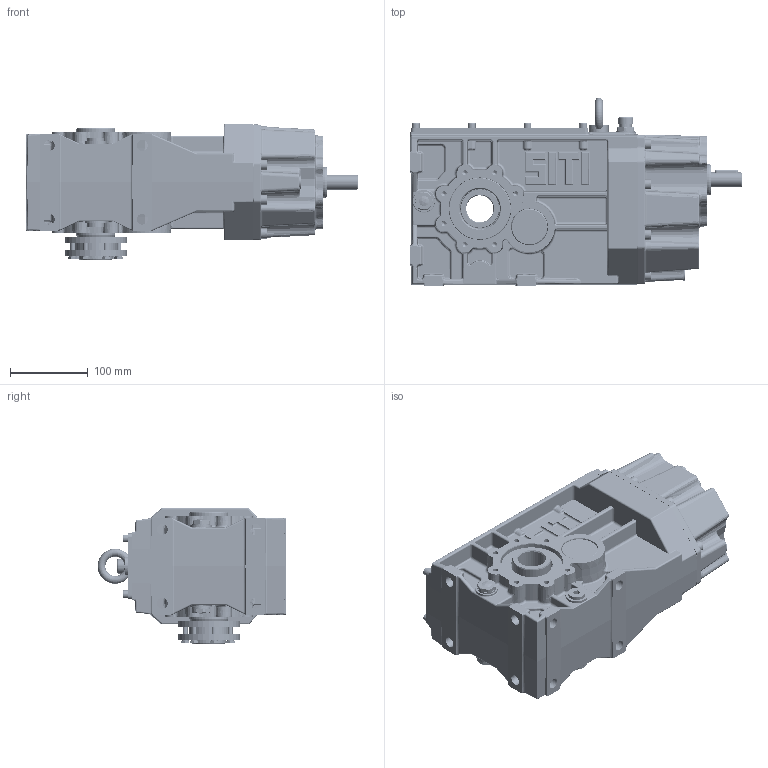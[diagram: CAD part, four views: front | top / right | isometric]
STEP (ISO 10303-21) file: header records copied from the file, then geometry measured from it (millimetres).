
FILE_DESCRIPTION((''),'2;1');
FILE_NAME('O:\Figurini\Figurini BH\3D\BH 63 CC-A.stp','2013-04-17T12:53:05',('d.iannaccio'),(''),'Autodesk Inventor 2012','Autodesk Inventor 2012','');
FILE_SCHEMA(('AUTOMOTIVE_DESIGN { 1 0 10303 214 1 1 1 1 }'));
Length unit declared in the file: millimetre
Products named in the file (1): BH_63 CC-A
Bounding box: 428 x 243.49 x 175 mm (x, y, z)
Volume: 3156137.7 mm3; surface area: 800829.8 mm2
Topology: 2 solids, 44 shells, 3497 faces, 8262 edges, 4896 vertices
Faces by surface type: cylinder 1091, plane 1020, bspline 666, cone 300, torus 292, sphere 128
Full cylindrical faces by diameter (mm): 4.2 x1, 4.917 x8, 5 x1, 5.3 x1, 6 x30, 6.5 x14, 6.647 x30, 7 x8, 8 x22, 8.376 x1, 8.5 x2, 8.88 x7, 9 x8, 10 x17, 11 x1, 11.445 x1, 13 x8, 14 x8, 14.95 x5, 16 x1, 18 x1, 19 x1, 19.5 x1, 25 x1, 28 x6, 35 x2, 36 x1, 37.5 x2, 39.592 x1, 39.6 x1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
Entity records: 120436 total; most frequent: CARTESIAN_POINT 42485, DIRECTION 15276, ORIENTED_EDGE 15052, EDGE_CURVE 7526, AXIS2_PLACEMENT_3D 6314, VERTEX_POINT 4716, EDGE_LOOP 4185, STYLED_ITEM 3498
